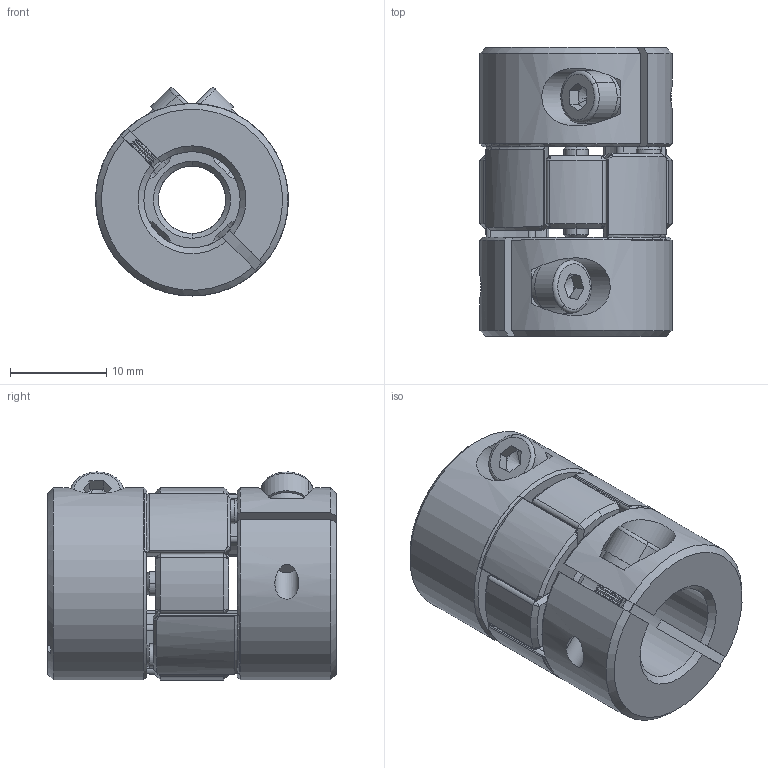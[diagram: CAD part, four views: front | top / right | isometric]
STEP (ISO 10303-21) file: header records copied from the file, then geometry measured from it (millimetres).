
FILE_DESCRIPTION (( 'STEP AP203' ), '1' );
FILE_NAME ('LF-B-D20L30-7-10.STEP', '2021-10-27T02:53:35', ( '' ), ( '' ), 'SwSTEP 2.0', 'SolidWorks 2018', '' );
FILE_SCHEMA (( 'CONFIG_CONTROL_DESIGN' ));
Length unit declared in the file: millimetre
Products named in the file (1): LF-B-D20L30-7-10
Bounding box: 20 x 30 x 21.62 mm (x, y, z)
Volume: 7156.2 mm3; surface area: 4842.3 mm2
Topology: 1 solids, 1 shells, 518 faces, 1253 edges, 691 vertices
Faces by surface type: cone 252, cylinder 192, plane 62, torus 12
Entity records: 15022 total; most frequent: CARTESIAN_POINT 2902, DIRECTION 2742, ORIENTED_EDGE 2426, EDGE_CURVE 1213, AXIS2_PLACEMENT_3D 1107, VERTEX_POINT 691, CIRCLE 588, EDGE_LOOP 546
